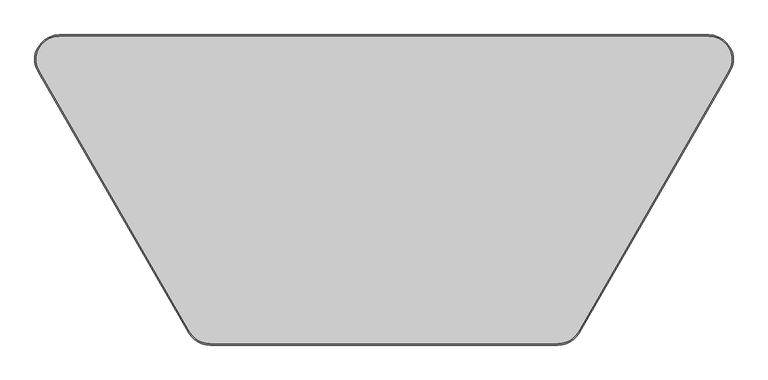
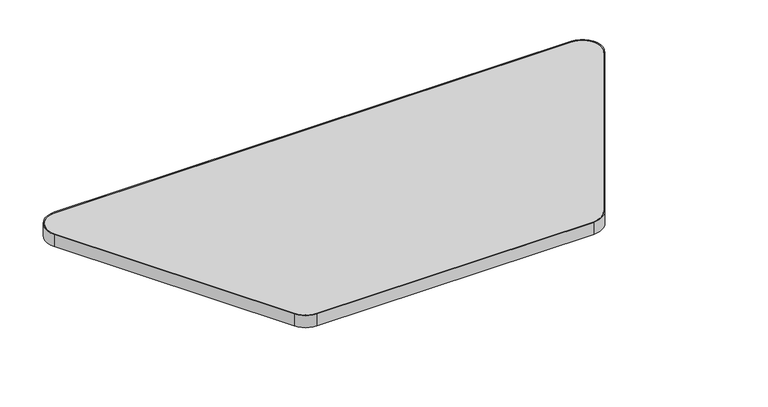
"""IFC4 building model written with IfcOpenShell, lengths in millimetres: furniture geometry, Steelcase - Groupwork - Table - Top - Trapezoid : 26 1/2D x 60W - HPL."""

from ifc_helpers import new_model, si_unit, point, frame, frame_2d, origin, place, context, project, spatial, polyline, circle_curve, trimmed, segment, composite_curve, outline, extrude, source, transform, mapped, element, save


def furniture_453c43cd(model_context):
    return source(origin(), model_context, "Body", "SweptSolid", [
        extrude(outline(composite_curve([segment(polyline([(53.7976208, 0.0), (1476.1976078, 0.0)]), True, "CONTINUOUS"), segment(trimmed(circle_curve(frame_2d((1476.1976078, -53.6675957)), 53.6675957), [point((1476.1976078, 0.0))], [point((1522.6751103, -80.5013915))], False, "CARTESIAN"), True, "CONTINUOUS"), segment(polyline([(1522.6751103, -80.5013915), (1192.475147, -652.4245635)]), True, "CONTINUOUS"), segment(trimmed(circle_curve(frame_2d((1145.9976445, -625.5907677)), 53.6675957), [point((1192.475147, -652.4245635))], [point((1145.9976445, -679.2583635))], False, "CARTESIAN"), True, "CONTINUOUS"), segment(polyline([(1145.9976445, -679.2583635), (383.9976, -679.2583635)]), True, "CONTINUOUS"), segment(trimmed(circle_curve(frame_2d((383.9976, -625.5907677)), 53.6675957), [point((383.9976, -679.2583635))], [point((337.520098, -652.4245645))], False, "CARTESIAN"), True, "CONTINUOUS"), segment(polyline([(337.520098, -652.4245645), (7.3201189, -80.5013925)]), True, "CONTINUOUS"), segment(trimmed(circle_curve(frame_2d((53.7976208, -53.6675957)), 53.6675957), [point((7.3201189, -80.5013925))], [point((53.7976208, 0.0))], False, "CARTESIAN"), True, "CONTINUOUS")], self_intersect=False), holes=[composite_curve([segment(polyline([(1189.9014926, -650.9386636), (1520.1014558, -79.0154916)]), True, "CONTINUOUS"), segment(trimmed(circle_curve(frame_2d((1476.1976078, -53.6675957)), 50.6957957), [point((1520.1014558, -79.0154916))], [point((1476.1976078, -2.9718001))], True, "CARTESIAN"), True, "CONTINUOUS"), segment(polyline([(1476.1976078, -2.9718001), (53.7976208, -2.9718001)]), True, "CONTINUOUS"), segment(trimmed(circle_curve(frame_2d((53.7976208, -53.6675957)), 50.6957957), [point((53.7976208, -2.9718001))], [point((9.8937733, -79.0154925))], True, "CARTESIAN"), True, "CONTINUOUS"), segment(polyline([(9.8937733, -79.0154925), (340.0937524, -650.9386645)]), True, "CONTINUOUS"), segment(trimmed(circle_curve(frame_2d((383.9976, -625.5907677)), 50.6957957), [point((340.0937524, -650.9386645))], [point((383.9976, -676.2865634))], True, "CARTESIAN"), True, "CONTINUOUS"), segment(polyline([(383.9976, -676.2865634), (1145.9976445, -676.2865634)]), True, "CONTINUOUS"), segment(trimmed(circle_curve(frame_2d((1145.9976445, -625.5907677)), 50.6957957), [point((1145.9976445, -676.2865634))], [point((1189.9014926, -650.9386636))], True, "CARTESIAN"), True, "CONTINUOUS")], self_intersect=False)]), frame((0.0, 0.0, 695.579), z_axis=(0.0, 0.0, 1.0), x_axis=(1.0, 0.0, 0.0)), (0.0, 0.0, 1.0), 35.052),
        extrude(outline(composite_curve([segment(polyline([(53.7976208, -2.8675957), (1476.1976078, -2.8675957)]), True, "CONTINUOUS"), segment(trimmed(circle_curve(frame_2d((1476.1976078, -53.6675957)), 50.8), [point((1476.1976078, -2.8675957))], [point((1520.1916994, -79.0675938))], False, "CARTESIAN"), True, "CONTINUOUS"), segment(polyline([(1520.1916994, -79.0675938), (1189.9917362, -650.9907658)]), True, "CONTINUOUS"), segment(trimmed(circle_curve(frame_2d((1145.9976445, -625.5907677)), 50.8), [point((1189.9917362, -650.9907658))], [point((1145.9976445, -676.3907677))], False, "CARTESIAN"), True, "CONTINUOUS"), segment(polyline([(1145.9976445, -676.3907677), (383.9976, -676.3907677)]), True, "CONTINUOUS"), segment(trimmed(circle_curve(frame_2d((383.9976, -625.5907677)), 50.8), [point((383.9976, -676.3907677))], [point((340.0035088, -650.9907667))], False, "CARTESIAN"), True, "CONTINUOUS"), segment(polyline([(340.0035088, -650.9907667), (9.8035297, -79.0675947)]), True, "CONTINUOUS"), segment(trimmed(circle_curve(frame_2d((53.7976208, -53.6675957)), 50.8), [point((9.8035297, -79.0675947))], [point((53.7976208, -2.8675957))], False, "CARTESIAN"), True, "CONTINUOUS")], self_intersect=False)), frame((0.0, 0.0, 695.579), z_axis=(0.0, 0.0, 1.0), x_axis=(1.0, 0.0, 0.0)), (0.0, 0.0, 1.0), 35.052),
    ])


if __name__ == "__main__":
    model = new_model("IFC4")
    model_context = context("Model", 3, world=origin())
    ifc_project = project(units=[si_unit("LENGTHUNIT", "METRE", prefix="MILLI")], contexts=[model_context])
    site = spatial("IfcSite", under=ifc_project)
    building = spatial("IfcBuilding", under=site)
    placement = place(None, origin())
    furniture_shape = furniture_453c43cd(model_context)
    element("IfcFurniture", 1, ObjectType="Steelcase - Groupwork - Table - Top - Trapezoid : 26 1/2D x 60W - HPL", at=placement, inside=building, context=model_context, shape_type="MappedRepresentation", body=[
        mapped(furniture_shape, transform((0.0, 0.0, 0.0), x_axis=(1.0, 0.0, 0.0), y_axis=(0.0, 1.0, 0.0), z_axis=(0.0, 0.0, 1.0))),
    ])
    save(model, "model.ifc")
